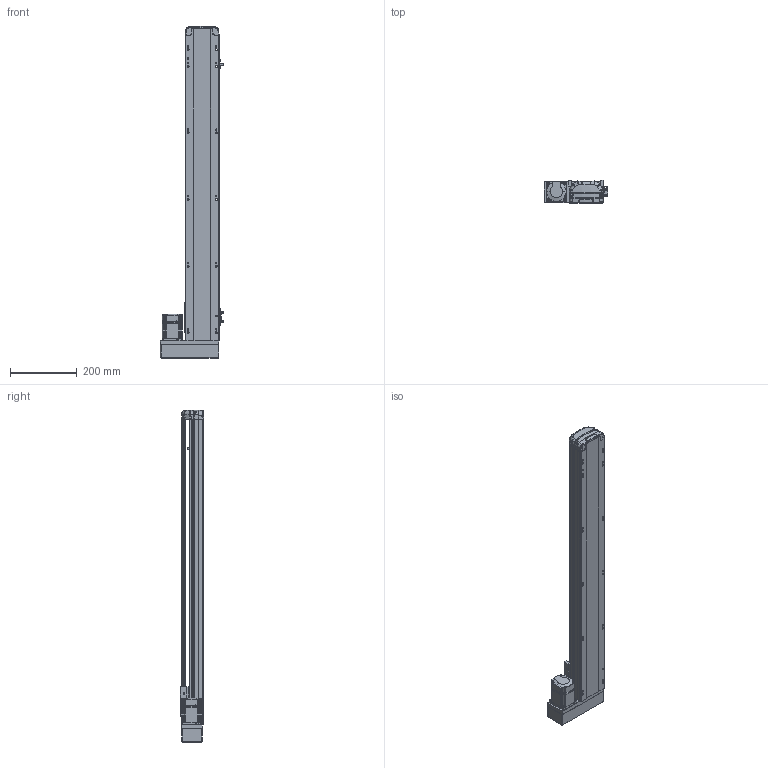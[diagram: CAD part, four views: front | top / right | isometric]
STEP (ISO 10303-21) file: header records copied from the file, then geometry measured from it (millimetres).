
FILE_DESCRIPTION (( 'STEP AP214' ), '1' );
FILE_NAME ('RTH10-XX-750-L-M20-C4.STEP', '2025-10-25T03:48:33', ( 'Microsoft' ), ( 'Microsoft' ), 'SwSTEP 2.0', 'SolidWorks 2018', '' );
FILE_SCHEMA (( 'AUTOMOTIVE_DESIGN' ));
Length unit declared in the file: millimetre
Products named in the file (10): N_RTH12-L-008萇儂啣^RTH10-XX-XX-L-M20-C4; N_RTH13-L-012覜茼え俋离^RTH10-XX-XX-L-M20-C4; N_RTH12-GY-004-賑釱^RTH10-XX-XX-L-M20-C4; N_RTH12-L-018-裔赽^RTH10-XX-XX-L-M20-C4; N_RTH12-M-011P-臏倰第菁釱^RTH10-XX-XX-L-M20-C4; N_RTH12-M-007P-奻裔^RTH10-XX-XX-L-M20-C4; N_200W-1^RTH10-XX-XX-L-M20-C4; N_RTH12-GY-001P^RTH10-XX-XX-L-M20-C4; RTH10-XX-750-L-M20-C4; N_OMRON EE-SX672 传感器^RTH10-XX-XX-L-M20-C4
Assembly tree (11 placements, depth 2):
  RTH10-XX-750-L-M20-C4
    N_RTH12-M-011P-臏倰第菁釱^RTH10-XX-XX-L-M20-C4
    N_RTH13-L-012覜茼え俋离^RTH10-XX-XX-L-M20-C4
    N_OMRON EE-SX672 传感器^RTH10-XX-XX-L-M20-C4  x3
    N_200W-1^RTH10-XX-XX-L-M20-C4
    N_RTH12-M-007P-奻裔^RTH10-XX-XX-L-M20-C4
    N_RTH12-L-008萇儂啣^RTH10-XX-XX-L-M20-C4
    N_RTH12-L-018-裔赽^RTH10-XX-XX-L-M20-C4
    N_RTH12-GY-004-賑釱^RTH10-XX-XX-L-M20-C4
    N_RTH12-GY-001P^RTH10-XX-XX-L-M20-C4
Bounding box: 190 x 70 x 997.31 mm (x, y, z)
Volume: 4428087.6 mm3; surface area: 671055.3 mm2
Topology: 10 solids, 12 shells, 1996 faces, 5575 edges, 3661 vertices
Faces by surface type: plane 987, cylinder 502, bspline 472, cone 29, sphere 4, torus 2
Entity records: 60317 total; most frequent: CARTESIAN_POINT 23581, ORIENTED_EDGE 8222, DIRECTION 6389, EDGE_CURVE 4117, VERTEX_POINT 2705, VECTOR 2195, LINE 2195, AXIS2_PLACEMENT_3D 2097
